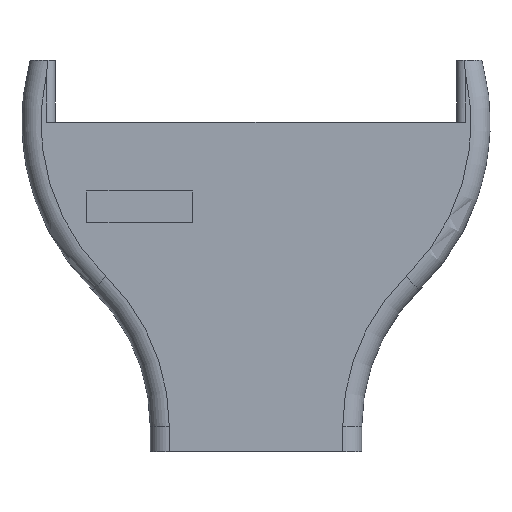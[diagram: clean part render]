
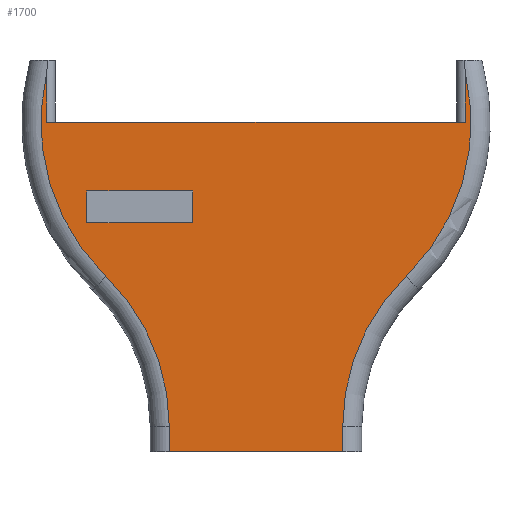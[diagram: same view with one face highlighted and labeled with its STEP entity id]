
A CAD part, front view. The second image highlights one B-rep face of the part: STEP entity #1700.
In plain terms, the highlighted planar face has unit normal (0, -1, 0).
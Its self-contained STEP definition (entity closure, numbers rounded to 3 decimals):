
#39=FACE_BOUND('',#192,.T.);
#45=PLANE('',#1817);
#94=FACE_OUTER_BOUND('',#191,.T.);
#191=EDGE_LOOP('',(#1160,#1161,#1162,#1163,#1164,#1165,#1166,#1167,#1168,
#1169));
#192=EDGE_LOOP('',(#1170,#1171,#1172,#1173));
#338=LINE('',#2527,#480);
#340=LINE('',#2533,#482);
#341=LINE('',#2539,#483);
#342=LINE('',#2541,#484);
#343=LINE('',#2543,#485);
#344=LINE('',#2548,#486);
#345=LINE('',#2551,#487);
#346=LINE('',#2553,#488);
#347=LINE('',#2555,#489);
#348=LINE('',#2556,#490);
#480=VECTOR('',#2005,10.);
#482=VECTOR('',#2011,10.);
#483=VECTOR('',#2016,10.);
#484=VECTOR('',#2017,10.);
#485=VECTOR('',#2018,10.);
#486=VECTOR('',#2023,10.);
#487=VECTOR('',#2024,10.);
#488=VECTOR('',#2025,10.);
#489=VECTOR('',#2026,10.);
#490=VECTOR('',#2027,10.);
#620=CIRCLE('',#1818,10.175);
#621=CIRCLE('',#1819,9.9);
#622=CIRCLE('',#1820,9.9);
#623=CIRCLE('',#1821,10.175);
#711=VERTEX_POINT('',#2519);
#712=VERTEX_POINT('',#2526);
#714=VERTEX_POINT('',#2532);
#715=VERTEX_POINT('',#2534);
#716=VERTEX_POINT('',#2536);
#717=VERTEX_POINT('',#2538);
#718=VERTEX_POINT('',#2540);
#719=VERTEX_POINT('',#2542);
#720=VERTEX_POINT('',#2544);
#721=VERTEX_POINT('',#2546);
#722=VERTEX_POINT('',#2549);
#723=VERTEX_POINT('',#2550);
#724=VERTEX_POINT('',#2552);
#725=VERTEX_POINT('',#2554);
#886=EDGE_CURVE('',#711,#712,#338,.T.);
#889=EDGE_CURVE('',#714,#712,#340,.T.);
#890=EDGE_CURVE('',#715,#711,#620,.T.);
#891=EDGE_CURVE('',#716,#715,#621,.T.);
#892=EDGE_CURVE('',#717,#716,#341,.T.);
#893=EDGE_CURVE('',#718,#717,#342,.T.);
#894=EDGE_CURVE('',#719,#718,#343,.T.);
#895=EDGE_CURVE('',#720,#719,#622,.T.);
#896=EDGE_CURVE('',#721,#720,#623,.T.);
#897=EDGE_CURVE('',#714,#721,#344,.T.);
#898=EDGE_CURVE('',#722,#723,#345,.T.);
#899=EDGE_CURVE('',#723,#724,#346,.T.);
#900=EDGE_CURVE('',#724,#725,#347,.T.);
#901=EDGE_CURVE('',#725,#722,#348,.T.);
#1160=ORIENTED_EDGE('',*,*,#889,.T.);
#1161=ORIENTED_EDGE('',*,*,#886,.F.);
#1162=ORIENTED_EDGE('',*,*,#890,.F.);
#1163=ORIENTED_EDGE('',*,*,#891,.F.);
#1164=ORIENTED_EDGE('',*,*,#892,.F.);
#1165=ORIENTED_EDGE('',*,*,#893,.F.);
#1166=ORIENTED_EDGE('',*,*,#894,.F.);
#1167=ORIENTED_EDGE('',*,*,#895,.F.);
#1168=ORIENTED_EDGE('',*,*,#896,.F.);
#1169=ORIENTED_EDGE('',*,*,#897,.F.);
#1170=ORIENTED_EDGE('',*,*,#898,.T.);
#1171=ORIENTED_EDGE('',*,*,#899,.T.);
#1172=ORIENTED_EDGE('',*,*,#900,.T.);
#1173=ORIENTED_EDGE('',*,*,#901,.T.);
#1700=ADVANCED_FACE('',(#94,#39),#45,.T.);
#1817=AXIS2_PLACEMENT_3D('',#2531,#2009,#2010);
#1818=AXIS2_PLACEMENT_3D('',#2535,#2012,#2013);
#1819=AXIS2_PLACEMENT_3D('',#2537,#2014,#2015);
#1820=AXIS2_PLACEMENT_3D('',#2545,#2019,#2020);
#1821=AXIS2_PLACEMENT_3D('',#2547,#2021,#2022);
#2005=DIRECTION('',(0.,0.,-1.));
#2009=DIRECTION('center_axis',(0.,-1.,0.));
#2010=DIRECTION('ref_axis',(-1.,0.,0.));
#2011=DIRECTION('',(-1.,0.,0.));
#2012=DIRECTION('center_axis',(0.,1.,0.));
#2013=DIRECTION('ref_axis',(-0.965,0.,-0.263));
#2014=DIRECTION('center_axis',(0.,-1.,0.));
#2015=DIRECTION('ref_axis',(0.921,0.,0.389));
#2016=DIRECTION('',(0.,0.,1.));
#2017=DIRECTION('',(-1.,0.,0.));
#2018=DIRECTION('',(0.,0.,-1.));
#2019=DIRECTION('center_axis',(0.,-1.,0.));
#2020=DIRECTION('ref_axis',(-0.921,0.,0.389));
#2021=DIRECTION('center_axis',(0.,1.,0.));
#2022=DIRECTION('ref_axis',(0.965,0.,-0.263));
#2023=DIRECTION('',(0.,0.,1.));
#2024=DIRECTION('',(0.,0.,1.));
#2025=DIRECTION('',(1.,0.,0.));
#2026=DIRECTION('',(0.,0.,-1.));
#2027=DIRECTION('',(-1.,0.,0.));
#2519=CARTESIAN_POINT('',(-5.8,0.,17.925));
#2526=CARTESIAN_POINT('',(-5.8,0.,15.575));
#2527=CARTESIAN_POINT('',(-5.8,0.,12.788));
#2531=CARTESIAN_POINT('Origin',(4.1,0.,10.));
#2532=CARTESIAN_POINT('',(14.,0.,15.575));
#2533=CARTESIAN_POINT('',(8.85,0.,15.575));
#2534=CARTESIAN_POINT('',(-2.996,0.,8.283));
#2535=CARTESIAN_POINT('Origin',(4.1,0.,15.575));
#2536=CARTESIAN_POINT('',(0.,0.,1.187));
#2537=CARTESIAN_POINT('Origin',(-9.9,0.,1.187));
#2538=CARTESIAN_POINT('',(0.,0.,0.));
#2539=CARTESIAN_POINT('',(0.,0.,6.5));
#2540=CARTESIAN_POINT('',(8.2,0.,0.));
#2541=CARTESIAN_POINT('',(9.1,0.,0.));
#2542=CARTESIAN_POINT('',(8.2,0.,1.187));
#2543=CARTESIAN_POINT('',(8.2,0.,7.847));
#2544=CARTESIAN_POINT('',(11.196,0.,8.283));
#2545=CARTESIAN_POINT('Origin',(18.1,0.,1.187));
#2546=CARTESIAN_POINT('',(14.,0.,17.925));
#2547=CARTESIAN_POINT('Origin',(4.1,0.,15.575));
#2548=CARTESIAN_POINT('',(14.,0.,14.25));
#2549=CARTESIAN_POINT('',(-3.9,0.,10.825));
#2550=CARTESIAN_POINT('',(-3.9,0.,12.325));
#2551=CARTESIAN_POINT('',(-3.9,0.,10.413));
#2552=CARTESIAN_POINT('',(1.1,0.,12.325));
#2553=CARTESIAN_POINT('',(0.1,0.,12.325));
#2554=CARTESIAN_POINT('',(1.1,0.,10.825));
#2555=CARTESIAN_POINT('',(1.1,0.,11.163));
#2556=CARTESIAN_POINT('',(2.6,0.,10.825));
